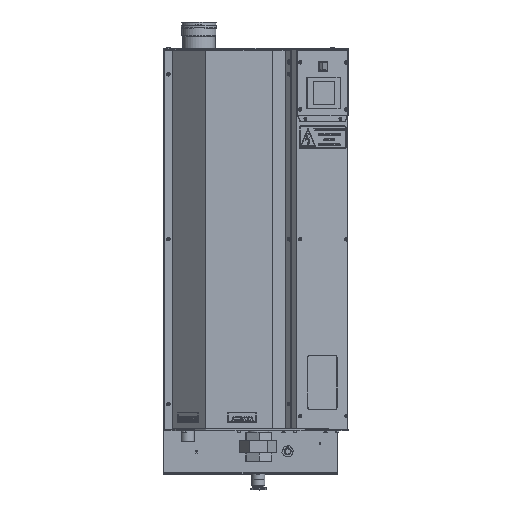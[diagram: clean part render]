
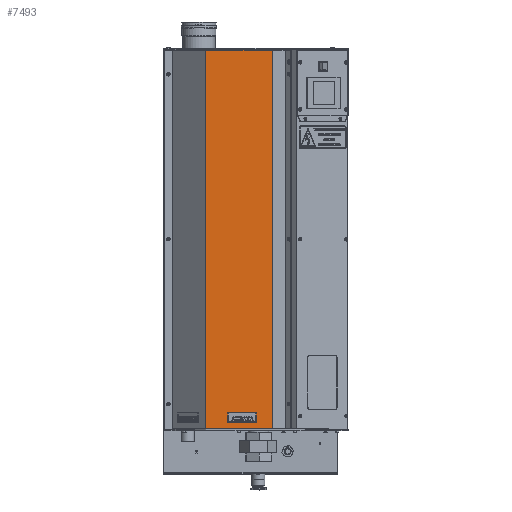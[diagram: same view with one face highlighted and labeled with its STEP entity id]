
A CAD part, top view. The second image highlights one B-rep face of the part: STEP entity #7493.
In plain terms, the highlighted planar face has unit normal (0, 0, 1).
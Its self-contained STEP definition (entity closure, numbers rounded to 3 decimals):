
#421 = CARTESIAN_POINT ( 'NONE',  ( -37.51, 567., 227. ) ) ;
#1452 = AXIS2_PLACEMENT_3D ( 'NONE', #421, #60593, #54540 ) ;
#1767 = CARTESIAN_POINT ( 'NONE',  ( -127.468, 567., 227. ) ) ;
#2892 = LINE ( 'NONE', #56309, #62765 ) ;
#7493 = ADVANCED_FACE ( 'NONE', ( #65924 ), #65574, .F. ) ;
#8769 = LINE ( 'NONE', #13416, #11552 ) ;
#11552 = VECTOR ( 'NONE', #68238, 1000. ) ;
#12071 = DIRECTION ( 'NONE',  ( 0., -1., 0. ) ) ;
#13012 = EDGE_CURVE ( 'NONE', #58555, #44807, #2892, .T. ) ;
#13416 = CARTESIAN_POINT ( 'NONE',  ( -127.468, 565.9, 227. ) ) ;
#13475 = EDGE_CURVE ( 'NONE', #16096, #24251, #8769, .T. ) ;
#16096 = VERTEX_POINT ( 'NONE', #28707 ) ;
#16989 = EDGE_CURVE ( 'NONE', #24251, #44807, #25639, .T. ) ;
#17294 = VECTOR ( 'NONE', #12071, 1000. ) ;
#24251 = VERTEX_POINT ( 'NONE', #35474 ) ;
#25639 = LINE ( 'NONE', #70369, #66807 ) ;
#28707 = CARTESIAN_POINT ( 'NONE',  ( -127.468, 565.9, 227. ) ) ;
#29187 = ORIENTED_EDGE ( 'NONE', *, *, #13012, .T. ) ;
#31024 = CARTESIAN_POINT ( 'NONE',  ( -127.468, -351.9, 227. ) ) ;
#32636 = ORIENTED_EDGE ( 'NONE', *, *, #58835, .T. ) ;
#35474 = CARTESIAN_POINT ( 'NONE',  ( 33.449, 565.9, 227. ) ) ;
#37497 = EDGE_LOOP ( 'NONE', ( #62374, #32636, #29187, #56381 ) ) ;
#38475 = LINE ( 'NONE', #1767, #17294 ) ;
#44807 = VERTEX_POINT ( 'NONE', #53839 ) ;
#49739 = DIRECTION ( 'NONE',  ( 0., -1., 0. ) ) ;
#53839 = CARTESIAN_POINT ( 'NONE',  ( 33.449, -351.9, 227. ) ) ;
#54540 = DIRECTION ( 'NONE',  ( -1., 0., 0. ) ) ;
#56309 = CARTESIAN_POINT ( 'NONE',  ( -127.468, -351.9, 227. ) ) ;
#56381 = ORIENTED_EDGE ( 'NONE', *, *, #16989, .F. ) ;
#58555 = VERTEX_POINT ( 'NONE', #31024 ) ;
#58835 = EDGE_CURVE ( 'NONE', #16096, #58555, #38475, .T. ) ;
#60593 = DIRECTION ( 'NONE',  ( 0., 0., -1. ) ) ;
#62374 = ORIENTED_EDGE ( 'NONE', *, *, #13475, .F. ) ;
#62765 = VECTOR ( 'NONE', #67333, 1000. ) ;
#65574 = PLANE ( 'NONE',  #1452 ) ;
#65924 = FACE_OUTER_BOUND ( 'NONE', #37497, .T. ) ;
#66807 = VECTOR ( 'NONE', #49739, 1000. ) ;
#67333 = DIRECTION ( 'NONE',  ( 1., 0., 0. ) ) ;
#68238 = DIRECTION ( 'NONE',  ( 1., 0., 0. ) ) ;
#70369 = CARTESIAN_POINT ( 'NONE',  ( 33.449, 567., 227. ) ) ;
